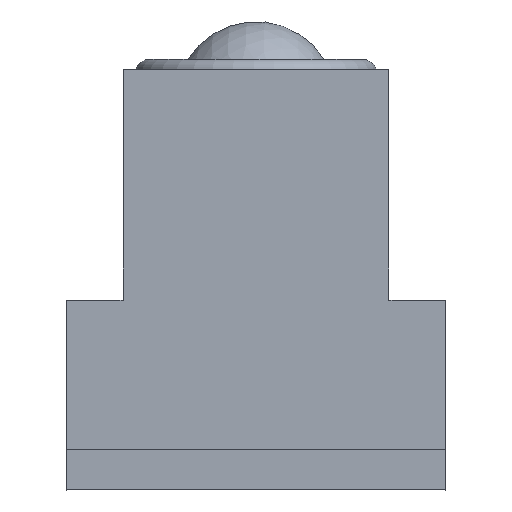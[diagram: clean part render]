
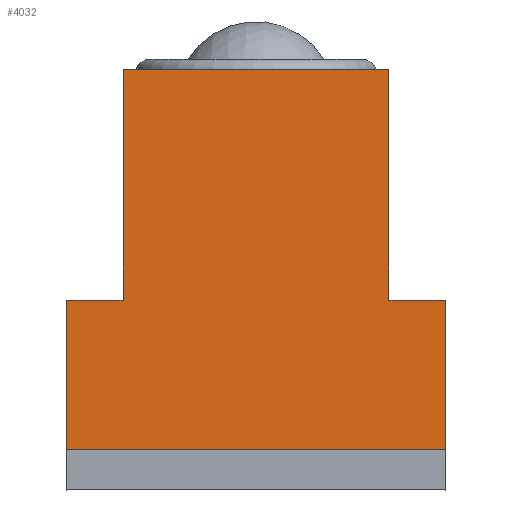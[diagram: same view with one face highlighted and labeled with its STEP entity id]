
A CAD part, left-side view. The second image highlights one B-rep face of the part: STEP entity #4032.
In plain terms, the highlighted planar face has unit normal (-1, 0, 0) as drawn and (0, 0, -1) by its records, which use the part's own axes.
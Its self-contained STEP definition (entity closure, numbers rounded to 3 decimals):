
#350=PLANE('',#4497);
#515=LINE('',#6967,#731);
#519=LINE('',#6974,#735);
#520=LINE('',#6978,#736);
#524=LINE('',#6985,#740);
#528=LINE('',#6992,#744);
#529=LINE('',#6995,#745);
#532=LINE('',#7001,#748);
#535=LINE('',#7006,#751);
#731=VECTOR('',#5570,18.2);
#735=VECTOR('',#5576,21.);
#736=VECTOR('',#5579,11.8);
#740=VECTOR('',#5585,4.5);
#744=VECTOR('',#5591,18.2);
#745=VECTOR('',#5594,4.5);
#748=VECTOR('',#5599,11.8);
#751=VECTOR('',#5604,30.);
#1288=FACE_OUTER_BOUND('',#1707,.T.);
#1707=EDGE_LOOP('',(#3610,#3611,#3612,#3613,#3614,#3615,#3616,#3617));
#2268=VERTEX_POINT('',#6964);
#2269=VERTEX_POINT('',#6966);
#2271=VERTEX_POINT('',#6972);
#2272=VERTEX_POINT('',#6976);
#2273=VERTEX_POINT('',#6977);
#2277=VERTEX_POINT('',#6990);
#2278=VERTEX_POINT('',#6994);
#2280=VERTEX_POINT('',#7000);
#2716=EDGE_CURVE('',#2268,#2269,#515,.T.);
#2720=EDGE_CURVE('',#2271,#2268,#519,.T.);
#2721=EDGE_CURVE('',#2272,#2273,#520,.T.);
#2725=EDGE_CURVE('',#2269,#2272,#524,.T.);
#2729=EDGE_CURVE('',#2277,#2271,#528,.T.);
#2730=EDGE_CURVE('',#2278,#2277,#529,.T.);
#2733=EDGE_CURVE('',#2280,#2278,#532,.T.);
#2736=EDGE_CURVE('',#2273,#2280,#535,.T.);
#3610=ORIENTED_EDGE('',*,*,#2736,.F.);
#3611=ORIENTED_EDGE('',*,*,#2721,.F.);
#3612=ORIENTED_EDGE('',*,*,#2725,.F.);
#3613=ORIENTED_EDGE('',*,*,#2716,.F.);
#3614=ORIENTED_EDGE('',*,*,#2720,.F.);
#3615=ORIENTED_EDGE('',*,*,#2729,.F.);
#3616=ORIENTED_EDGE('',*,*,#2730,.F.);
#3617=ORIENTED_EDGE('',*,*,#2733,.F.);
#4032=ADVANCED_FACE('',(#1288),#350,.F.);
#4497=AXIS2_PLACEMENT_3D('',#7009,#5608,#5609);
#5570=DIRECTION('',(0.,-1.,0.));
#5576=DIRECTION('',(-1.,0.,0.));
#5579=DIRECTION('',(0.,-1.,0.));
#5585=DIRECTION('',(-1.,0.,0.));
#5591=DIRECTION('',(0.,1.,0.));
#5594=DIRECTION('',(-1.,0.,0.));
#5599=DIRECTION('',(0.,1.,0.));
#5604=DIRECTION('',(1.,0.,0.));
#5608=DIRECTION('center_axis',(0.,0.,1.));
#5609=DIRECTION('ref_axis',(1.,0.,0.));
#6964=CARTESIAN_POINT('',(-10.5,30.,0.));
#6966=CARTESIAN_POINT('',(-10.5,11.8,0.));
#6967=CARTESIAN_POINT('',(-10.5,30.,0.));
#6972=CARTESIAN_POINT('',(10.5,30.,0.));
#6974=CARTESIAN_POINT('',(10.5,30.,0.));
#6976=CARTESIAN_POINT('',(-15.,11.8,0.));
#6977=CARTESIAN_POINT('',(-15.,0.,0.));
#6978=CARTESIAN_POINT('',(-15.,11.8,0.));
#6985=CARTESIAN_POINT('',(-10.5,11.8,0.));
#6990=CARTESIAN_POINT('',(10.5,11.8,0.));
#6992=CARTESIAN_POINT('',(10.5,11.8,0.));
#6994=CARTESIAN_POINT('',(15.,11.8,0.));
#6995=CARTESIAN_POINT('',(15.,11.8,0.));
#7000=CARTESIAN_POINT('',(15.,0.,0.));
#7001=CARTESIAN_POINT('',(15.,0.,0.));
#7006=CARTESIAN_POINT('',(-15.,0.,0.));
#7009=CARTESIAN_POINT('Origin',(0.,13.635,0.));
